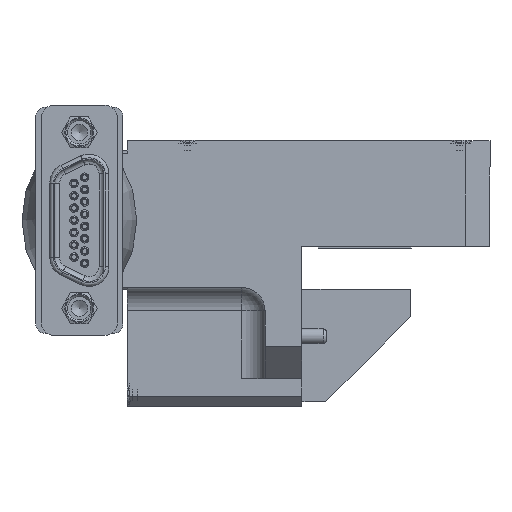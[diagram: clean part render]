
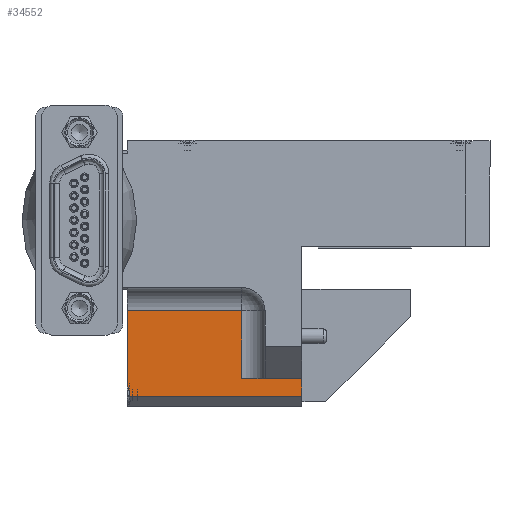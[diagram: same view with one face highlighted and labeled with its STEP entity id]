
A CAD part, front view. The second image highlights one B-rep face of the part: STEP entity #34552.
In plain terms, the highlighted planar face has unit normal (0, -1, 0).
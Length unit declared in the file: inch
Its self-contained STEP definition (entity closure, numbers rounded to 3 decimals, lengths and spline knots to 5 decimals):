
#985 = CARTESIAN_POINT ( 'NONE',  ( -0.95433, -0.35, -0.56994 ) ) ;
#1461 = EDGE_CURVE ( 'NONE', #75716, #48743, #88894, .T. ) ;
#4608 = ORIENTED_EDGE ( 'NONE', *, *, #40004, .T. ) ;
#6923 = CARTESIAN_POINT ( 'NONE',  ( -0.25004, -0.35, -0.6021 ) ) ;
#7350 = DIRECTION ( 'NONE',  ( -1., 0., 0. ) ) ;
#8153 = ORIENTED_EDGE ( 'NONE', *, *, #1461, .T. ) ;
#10115 = CARTESIAN_POINT ( 'NONE',  ( -0.895, -0.35, -0.6421 ) ) ;
#12134 = VECTOR ( 'NONE', #28570, 39.37008 ) ;
#12810 = VECTOR ( 'NONE', #34763, 39.37008 ) ;
#14052 = VERTEX_POINT ( 'NONE', #48786 ) ;
#14604 = LINE ( 'NONE', #73422, #29302 ) ;
#15424 = CARTESIAN_POINT ( 'NONE',  ( -0.96, -0.35, -0.55485 ) ) ;
#16428 = ORIENTED_EDGE ( 'NONE', *, *, #91709, .T. ) ;
#17319 = CARTESIAN_POINT ( 'NONE',  ( -0.95388, -0.35, -0.6021 ) ) ;
#20318 = EDGE_CURVE ( 'NONE', #20687, #48743, #85620, .T. ) ;
#20383 = CARTESIAN_POINT ( 'NONE',  ( -0.49379, -0.35, -0.529 ) ) ;
#20500 = VERTEX_POINT ( 'NONE', #82192 ) ;
#20687 = VERTEX_POINT ( 'NONE', #20383 ) ;
#21184 = CARTESIAN_POINT ( 'NONE',  ( -0.96, -0.35, -0.159 ) ) ;
#23064 = LINE ( 'NONE', #21184, #70404 ) ;
#24512 = CARTESIAN_POINT ( 'NONE',  ( -0.9523, -0.35, -0.59406 ) ) ;
#24525 = DIRECTION ( 'NONE',  ( -1., 0., 0. ) ) ;
#25129 = DIRECTION ( 'NONE',  ( 0., 0., 1. ) ) ;
#27672 = EDGE_LOOP ( 'NONE', ( #70192, #30675, #81100, #4608, #8153, #73220, #16428 ) ) ;
#28570 = DIRECTION ( 'NONE',  ( 0., 0., 1. ) ) ;
#29075 = EDGE_CURVE ( 'NONE', #20500, #91860, #23064, .T. ) ;
#29302 = VECTOR ( 'NONE', #7350, 39.37008 ) ;
#30346 = FACE_OUTER_BOUND ( 'NONE', #27672, .T. ) ;
#30675 = ORIENTED_EDGE ( 'NONE', *, *, #29075, .F. ) ;
#31923 = LINE ( 'NONE', #82132, #70418 ) ;
#32503 = CARTESIAN_POINT ( 'NONE',  ( -0.95388, -0.35, -0.6021 ) ) ;
#34552 = ADVANCED_FACE ( 'NONE', ( #30346 ), #60295, .F. ) ;
#34763 = DIRECTION ( 'NONE',  ( 1., 0., 0. ) ) ;
#40004 = EDGE_CURVE ( 'NONE', #63746, #75716, #71405, .T. ) ;
#48743 = VERTEX_POINT ( 'NONE', #56138 ) ;
#48786 = CARTESIAN_POINT ( 'NONE',  ( -0.49379, -0.35, -0.25275 ) ) ;
#48941 = B_SPLINE_CURVE_WITH_KNOTS ( 'NONE', 3,
 ( #17319, #66524, #24512, #67023, #76153, #52111, #985, #67507, #74729, #15424 ),
 .UNSPECIFIED., .F., .F.,
 ( 4, 2, 2, 2, 4 ),
 ( 0.00242, 0.00273, 0.00304, 0.00334, 0.00365 ),
 .UNSPECIFIED. ) ;
#49607 = EDGE_CURVE ( 'NONE', #14052, #91860, #14604, .T. ) ;
#52111 = CARTESIAN_POINT ( 'NONE',  ( -0.95334, -0.35, -0.57392 ) ) ;
#53558 = DIRECTION ( 'NONE',  ( 0., 1., 0. ) ) ;
#56138 = CARTESIAN_POINT ( 'NONE',  ( -0.25004, -0.35, -0.529 ) ) ;
#59297 = DIRECTION ( 'NONE',  ( 0., 0., 1. ) ) ;
#60295 = PLANE ( 'NONE',  #67054 ) ;
#62980 = DIRECTION ( 'NONE',  ( 1., 0., 0. ) ) ;
#63746 = VERTEX_POINT ( 'NONE', #32503 ) ;
#64698 = CARTESIAN_POINT ( 'NONE',  ( -0.96, -0.35, -0.25275 ) ) ;
#65754 = CARTESIAN_POINT ( 'NONE',  ( -0.25004, -0.35, -0.6421 ) ) ;
#66059 = CARTESIAN_POINT ( 'NONE',  ( -0.25004, -0.35, -0.6021 ) ) ;
#66524 = CARTESIAN_POINT ( 'NONE',  ( -0.95292, -0.35, -0.59815 ) ) ;
#66648 = VECTOR ( 'NONE', #62980, 39.37008 ) ;
#67023 = CARTESIAN_POINT ( 'NONE',  ( -0.9519, -0.35, -0.58595 ) ) ;
#67054 = AXIS2_PLACEMENT_3D ( 'NONE', #10115, #53558, #24525 ) ;
#67507 = CARTESIAN_POINT ( 'NONE',  ( -0.95683, -0.35, -0.56225 ) ) ;
#70192 = ORIENTED_EDGE ( 'NONE', *, *, #49607, .T. ) ;
#70404 = VECTOR ( 'NONE', #59297, 39.37008 ) ;
#70418 = VECTOR ( 'NONE', #25129, 39.37008 ) ;
#71405 = LINE ( 'NONE', #66059, #12810 ) ;
#73220 = ORIENTED_EDGE ( 'NONE', *, *, #20318, .F. ) ;
#73422 = CARTESIAN_POINT ( 'NONE',  ( -0.895, -0.35, -0.25275 ) ) ;
#74729 = CARTESIAN_POINT ( 'NONE',  ( -0.95833, -0.35, -0.55851 ) ) ;
#75716 = VERTEX_POINT ( 'NONE', #6923 ) ;
#76153 = CARTESIAN_POINT ( 'NONE',  ( -0.95212, -0.35, -0.58192 ) ) ;
#81100 = ORIENTED_EDGE ( 'NONE', *, *, #85654, .F. ) ;
#82132 = CARTESIAN_POINT ( 'NONE',  ( -0.49379, -0.35, -0.159 ) ) ;
#82192 = CARTESIAN_POINT ( 'NONE',  ( -0.96, -0.35, -0.55485 ) ) ;
#85620 = LINE ( 'NONE', #92861, #66648 ) ;
#85654 = EDGE_CURVE ( 'NONE', #63746, #20500, #48941, .T. ) ;
#88894 = LINE ( 'NONE', #65754, #12134 ) ;
#91709 = EDGE_CURVE ( 'NONE', #20687, #14052, #31923, .T. ) ;
#91860 = VERTEX_POINT ( 'NONE', #64698 ) ;
#92861 = CARTESIAN_POINT ( 'NONE',  ( -0.25004, -0.35, -0.529 ) ) ;
